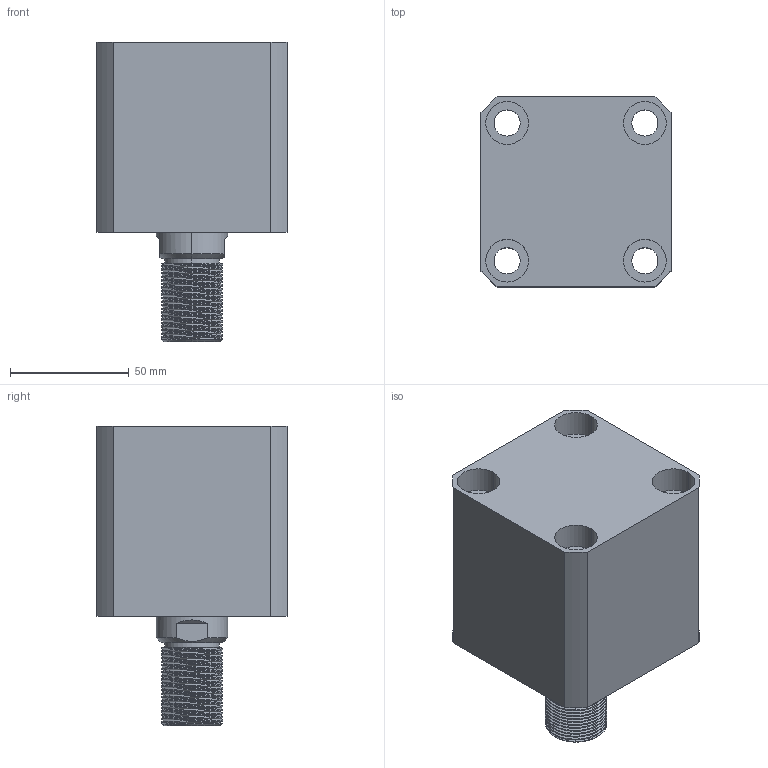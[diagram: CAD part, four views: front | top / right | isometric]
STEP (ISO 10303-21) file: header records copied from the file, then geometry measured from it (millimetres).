
FILE_DESCRIPTION (( 'STEP AP203' ), '1' );
FILE_NAME ('CHTB-SDMA50-20W.STEP', '2018-05-19T01:32:07', ( '' ), ( '' ), 'SwSTEP 2.0', 'SolidWorks 2015', '' );
FILE_SCHEMA (( 'CONFIG_CONTROL_DESIGN' ));
Length unit declared in the file: millimetre
Products named in the file (5): CHTM-SDMA50QG; 掛极SDMA50-20W; 活塞杆SDMA50-20W; M6; CHTB-SDMA50-20W
Assembly tree (5 placements, depth 2):
  CHTB-SDMA50-20W
    掛极SDMA50-20W
    活塞杆SDMA50-20W
    M6  x2
    CHTM-SDMA50QG
Bounding box: 80 x 80 x 126 mm (x, y, z)
Volume: 454769.3 mm3; surface area: 96567 mm2
Topology: 5 solids, 5 shells, 313 faces, 832 edges, 553 vertices
Faces by surface type: cylinder 179, plane 61, cone 29, bspline 28, torus 16
Entity records: 17877 total; most frequent: CARTESIAN_POINT 10975, ORIENTED_EDGE 1470, DIRECTION 1175, EDGE_CURVE 735, VERTEX_POINT 492, AXIS2_PLACEMENT_3D 473, EDGE_LOOP 321, ADVANCED_FACE 278
